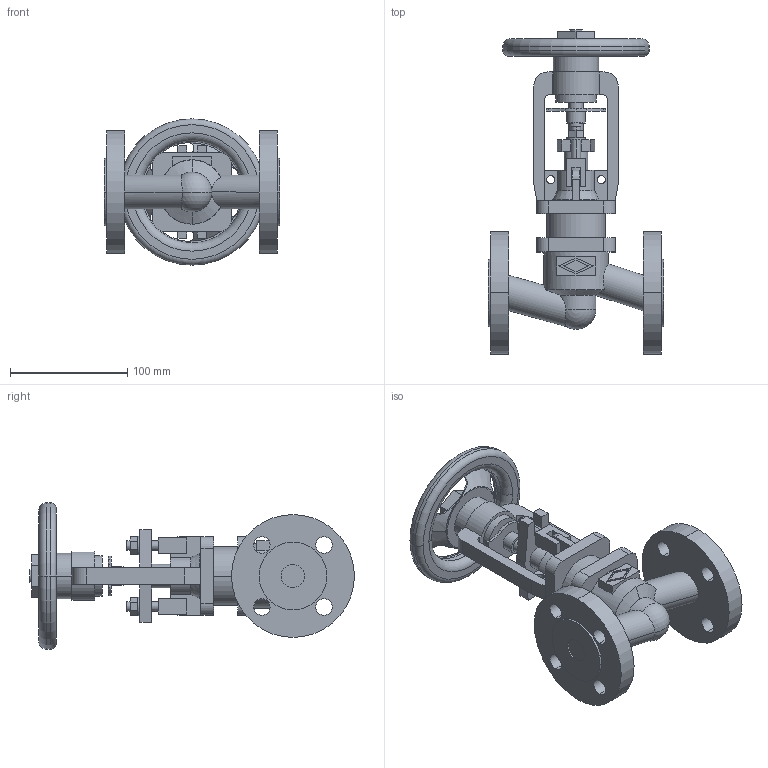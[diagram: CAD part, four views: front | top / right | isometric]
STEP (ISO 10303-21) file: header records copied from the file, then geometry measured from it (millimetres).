
FILE_DESCRIPTION(('OneSpaceDesigner STEP Export'),'2;1');
FILE_NAME('c000003736.stp','2009-06-15T13:03:30',(''),(''),'OneSpace Designer STEP processor for AP214 (Solid Model)','OneSpace Modeling 15.50B 03-Nov-2007 (C) CoCreate Software GmbH','');
FILE_SCHEMA(('AUTOMOTIVE_DESIGN { 1 0 10303 214 1 1 1 1 }'));
Length unit declared in the file: millimetre
Products named in the file (1): 1
Bounding box: 150 x 277.5 x 125 mm (x, y, z)
Volume: 824402.6 mm3; surface area: 152980.1 mm2
Topology: 1 solids, 1 shells, 283 faces, 755 edges, 496 vertices
Faces by surface type: plane 140, cylinder 113, cone 14, torus 14, sphere 2
Entity records: 14481 total; most frequent: CARTESIAN_POINT 5458, ORIENTED_EDGE 1506, DIRECTION 1258, EDGE_CURVE 753, VERTEX_POINT 496, AXIS2_PLACEMENT_3D 420, VECTOR 418, LINE 418
